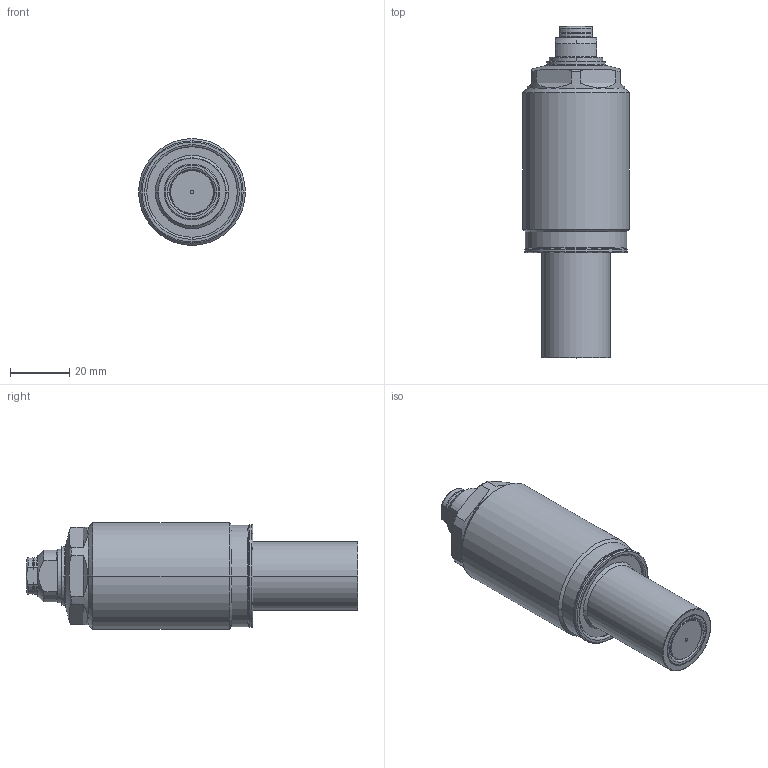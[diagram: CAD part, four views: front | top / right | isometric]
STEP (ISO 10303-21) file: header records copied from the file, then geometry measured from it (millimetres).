
FILE_DESCRIPTION(/* description */ (''),/* implementation_level */ '2;1');
FILE_NAME(/* name */ 'GSC04-Q.stp',/* time_stamp */ '2025-01-05T12:40:57+08:00',/* author */ (''),/* organization */ (''),/* preprocessor_version */ 'ST-DEVELOPER v16.7',/* originating_system */ 'SIEMENS PLM Software NX 12.0',/* authorisation */ '');
FILE_SCHEMA (('AUTOMOTIVE_DESIGN { 1 0 10303 214 3 1 1 1 }'));
Length unit declared in the file: millimetre
Products named in the file (8): TNC0403_ContactBolt_M101741; AS0103521; GSC04-Q-04; GSC04-Q-02; GSC04-Q-01; GSC04-Q-05; GSC04-Q-03; TNC1003-Q_step
Assembly tree (7 placements, depth 3):
  TNC1003-Q_step
    GSC04-Q-05
    GSC04-Q-01
    GSC04-Q-02
    GSC04-Q-03
      AS0103521
      TNC0403_ContactBolt_M101741
    GSC04-Q-04
Bounding box: 36 x 111.9 x 36 mm (x, y, z)
Volume: 76904.9 mm3; surface area: 17004.4 mm2
Topology: 6 solids, 6 shells, 160 faces, 357 edges, 217 vertices
Faces by surface type: torus 48, cylinder 47, plane 37, cone 26, sphere 2
Entity records: 4989 total; most frequent: CARTESIAN_POINT 1166, DIRECTION 853, ORIENTED_EDGE 714, AXIS2_PLACEMENT_3D 378, EDGE_CURVE 357, VERTEX_POINT 217, CIRCLE 210, EDGE_LOOP 176
